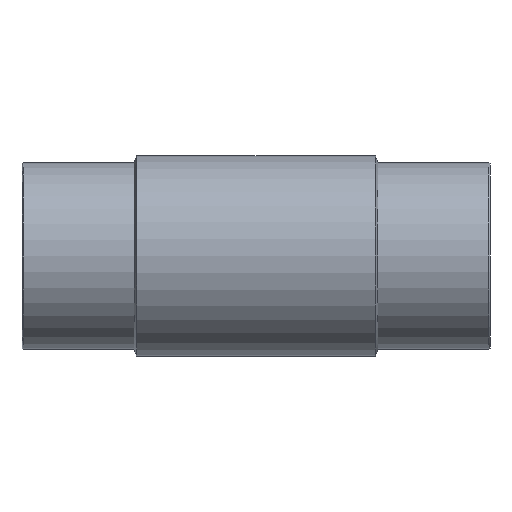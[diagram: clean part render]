
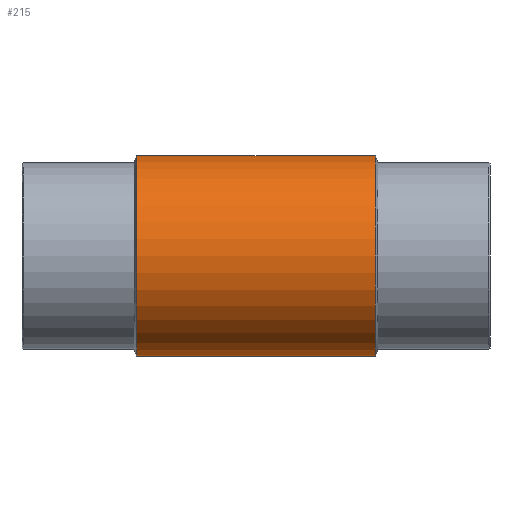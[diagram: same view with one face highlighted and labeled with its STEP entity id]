
A CAD part, front view. The second image highlights one B-rep face of the part: STEP entity #215.
In plain terms, the highlighted cylindrical face has radius 96.5 mm (diameter 193 mm), a full revolution.
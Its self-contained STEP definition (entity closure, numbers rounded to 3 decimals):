
#33=CIRCLE('',#250,96.5);
#35=CIRCLE('',#255,96.5);
#52=ORIENTED_EDGE('',*,*,#94,.T.);
#53=ORIENTED_EDGE('',*,*,#95,.T.);
#54=ORIENTED_EDGE('',*,*,#96,.F.);
#55=ORIENTED_EDGE('',*,*,#92,.T.);
#92=EDGE_CURVE('',#113,#113,#33,.T.);
#94=EDGE_CURVE('',#115,#116,#130,.T.);
#95=EDGE_CURVE('',#116,#115,#131,.F.);
#96=EDGE_CURVE('',#117,#117,#35,.T.);
#113=VERTEX_POINT('',#369);
#115=VERTEX_POINT('',#374);
#116=VERTEX_POINT('',#375);
#117=VERTEX_POINT('',#378);
#130=ELLIPSE('',#253,142.977,96.5);
#131=ELLIPSE('',#254,142.977,96.5);
#139=EDGE_LOOP('',(#52,#53));
#140=EDGE_LOOP('',(#54));
#141=EDGE_LOOP('',(#55));
#175=FACE_BOUND('',#139,.T.);
#176=FACE_BOUND('',#140,.T.);
#177=FACE_BOUND('',#141,.T.);
#207=CYLINDRICAL_SURFACE('',#252,96.5);
#215=ADVANCED_FACE('',(#175,#176,#177),#207,.T.);
#250=AXIS2_PLACEMENT_3D('',#368,#295,#296);
#252=AXIS2_PLACEMENT_3D('',#372,#299,#300);
#253=AXIS2_PLACEMENT_3D('',#373,#301,#302);
#254=AXIS2_PLACEMENT_3D('',#376,#303,#304);
#255=AXIS2_PLACEMENT_3D('',#377,#305,#306);
#295=DIRECTION('',(-1.,0.,0.));
#296=DIRECTION('',(0.,0.,1.));
#299=DIRECTION('',(-1.,0.,0.));
#300=DIRECTION('',(0.,0.,1.));
#301=DIRECTION('',(0.675,-0.738,0.));
#302=DIRECTION('',(-0.738,-0.675,0.));
#303=DIRECTION('',(0.675,0.738,0.));
#304=DIRECTION('',(-0.738,0.675,0.));
#305=DIRECTION('',(-1.,0.,0.));
#306=DIRECTION('',(0.,0.,1.));
#368=CARTESIAN_POINT('',(115.,0.,0.));
#369=CARTESIAN_POINT('',(115.,0.,96.5));
#372=CARTESIAN_POINT('',(-60.,0.,0.));
#373=CARTESIAN_POINT('',(0.,0.,0.));
#374=CARTESIAN_POINT('',(0.,0.,-96.5));
#375=CARTESIAN_POINT('',(0.,0.,96.5));
#376=CARTESIAN_POINT('',(0.,0.,0.));
#377=CARTESIAN_POINT('',(-115.,0.,0.));
#378=CARTESIAN_POINT('',(-115.,0.,96.5));
